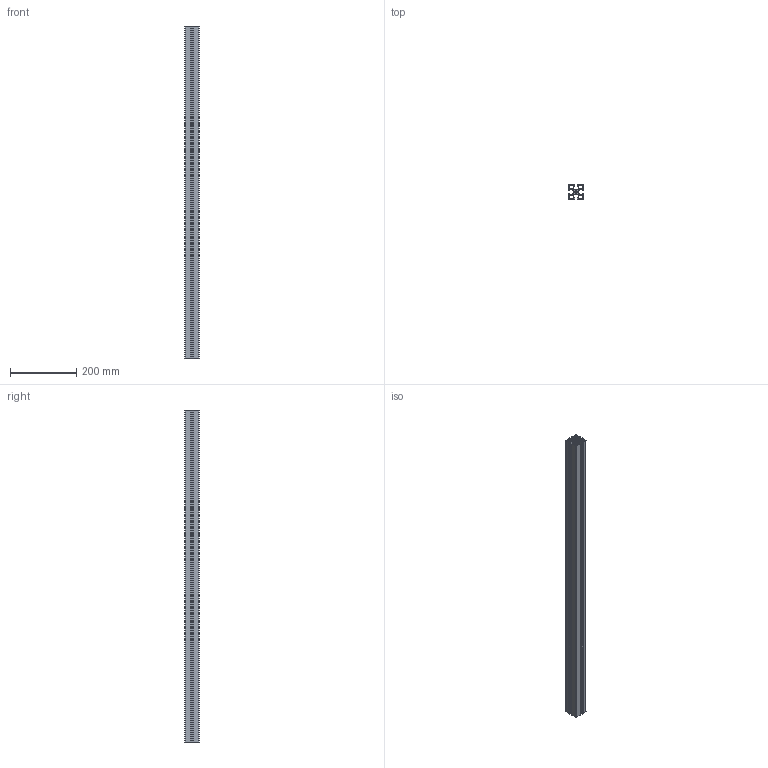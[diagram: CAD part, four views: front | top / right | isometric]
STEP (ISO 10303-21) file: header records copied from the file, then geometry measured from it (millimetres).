
FILE_DESCRIPTION (( 'STEP AP214' ), '1' );
FILE_NAME ('SA01001L.step', '2024-12-03T16:28:10', ( '' ), ( '' ), 'SwSTEP 2.0', 'SolidWorks 2023', '' );
FILE_SCHEMA (( 'AUTOMOTIVE_DESIGN' ));
Length unit declared in the file: millimetre
Products named in the file (1): SA01001L
Bounding box: 45 x 45 x 1000 mm (x, y, z)
Volume: 588919.6 mm3; surface area: 569165.5 mm2
Topology: 1 solids, 1 shells, 211 faces, 627 edges, 418 vertices
Faces by surface type: plane 142, cylinder 69
Full cylindrical faces by diameter (mm): 7.45 x1
Entity records: 7097 total; most frequent: CARTESIAN_POINT 1256, ORIENTED_EDGE 1252, DIRECTION 1188, EDGE_CURVE 626, VECTOR 488, LINE 488, VERTEX_POINT 418, AXIS2_PLACEMENT_3D 350
